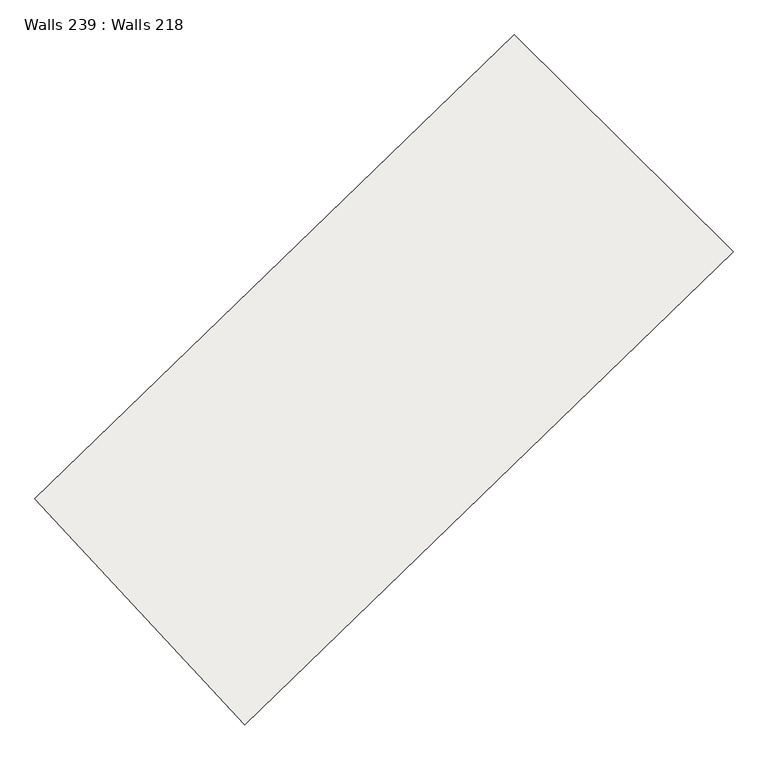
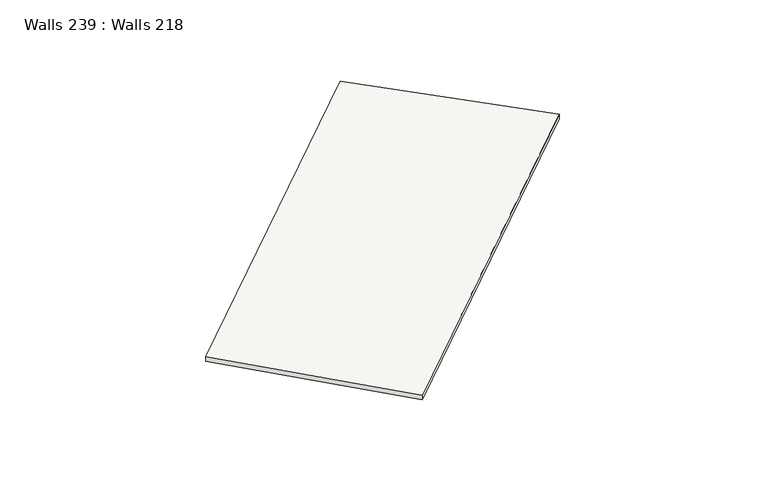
"""IFC4 building model written with IfcOpenShell, lengths in millimetres: slab geometry, Walls 239 : Walls 218."""

from ifc_helpers import new_model, si_unit, frame, origin, place, context, project, spatial, source, transform, mapped, element, save
from ifc_brep_helpers import plane_surface, spline_curve, spline_surface, advanced_brep


def walls_239_walls_218_a82ad72c(model_context):
    return source(origin(), model_context, "Body", "AdvancedBrep", [
        advanced_brep(
        [(370165.4526261, 240690.846763, 644465.0), (370165.4526261, 240690.846763, 644365.0), (372888.2739339, 237760.6772319, 644365.0), (372888.2739339, 237760.6772319, 644465.0), (376390.7596283, 246715.151751, 644577.0), (379230.0441313, 243897.6238432, 644577.0), (379230.0441313, 243897.6238432, 644477.0), (376390.7596283, 246715.151751, 644477.0)],
        [
            (0, 1),
            (1, 2),
            (2, 3),
            (3, 0),
            (4, 5),
            (5, 6),
            (6, 7),
            (7, 4),
            (4, 0, spline_curve(3, [(376390.7596283, 246715.151751, 644577.0), (374356.614224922, 244665.294566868, 644539.666667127), (372280.94434325, 242656.643678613, 644502.333332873), (370165.4526261, 240690.846763, 644465.0)], [4, 4], [0.0, 28.69159035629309])),
            (3, 5, spline_curve(3, [(372888.2739339, 237760.6772319, 644465.0), (375043.341691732, 239763.229715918, 644502.333332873), (377157.84326215, 241809.438075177, 644539.666667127), (379230.0441313, 243897.6238432, 644577.0)], [4, 4], [0.0, 28.69159035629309])),
            (7, 1, spline_curve(3, [(376390.7596283, 246715.151751, 644477.0), (374356.614225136, 244665.294566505, 644439.666667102), (372280.944343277, 242656.643678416, 644402.333332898), (370165.4526261, 240690.846763, 644365.0)], [4, 4], [0.0, 28.425809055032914])),
            (6, 2, spline_curve(3, [(379230.0441313, 243897.6238432, 644477.0), (377157.84326215, 241809.438075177, 644439.666667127), (375043.341691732, 239763.229715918, 644402.333332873), (372888.2739339, 237760.6772319, 644365.0)], [4, 4], [0.0, 28.69159035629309])),
        ],
        [
            plane_surface(frame((371526.86328, 239225.7619975, 644415.0), z_axis=(-0.7325504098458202, -0.6807127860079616, 0.0), x_axis=(0.0, 0.0, -1.0))),
            plane_surface(frame((377810.4018798, 245306.3877971, 644527.0), z_axis=(0.704381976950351, 0.7098211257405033, 0.0), x_axis=(0.0, 0.0, -1.0))),
            spline_surface(3, 3, [[(379230.0441313, 243897.6238432, 644577.0), (377157.843262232, 241809.438075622, 644539.666666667), (375043.341691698, 239763.229716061, 644502.333333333), (372888.2739339, 237760.6772319, 644465.0)], [(378283.615963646, 244836.799812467, 644577.0), (376224.100249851, 242761.390239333, 644539.666666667), (374122.542575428, 240727.701036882, 644502.333333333), (371980.666831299, 238737.400408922, 644465.0)], [(377337.187795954, 245775.975781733, 644577.0), (375290.357237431, 243713.342403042, 644539.666666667), (373201.743459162, 241692.172357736, 644502.333333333), (371073.059728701, 239714.123585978, 644465.0)], [(376390.7596283, 246715.151751, 644577.0), (374356.614225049, 244665.294566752, 644539.666666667), (372280.944342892, 242656.643678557, 644502.333333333), (370165.4526261, 240690.846763, 644465.0)]], [4, 4], [4, 4], [0.0, 13.123287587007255], [0.0, 28.69159035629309]),
            spline_surface(3, 3, [[(376390.7596283, 246715.151751, 644577.0), (374356.614225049, 244665.294566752, 644539.666666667), (372280.944342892, 242656.643678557, 644502.333333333), (370165.4526261, 240690.846763, 644465.0)], [(376390.7596283, 246715.151751, 644543.666666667), (374356.614225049, 244665.294566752, 644506.333333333), (372280.944342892, 242656.643678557, 644469.0), (370165.4526261, 240690.846763, 644431.666666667)], [(376390.7596283, 246715.151751, 644510.333333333), (374356.614225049, 244665.294566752, 644473.0), (372280.944342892, 242656.643678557, 644435.666666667), (370165.4526261, 240690.846763, 644398.333333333)], [(376390.7596283, 246715.151751, 644477.0), (374356.614225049, 244665.294566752, 644439.666666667), (372280.944342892, 242656.643678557, 644402.333333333), (370165.4526261, 240690.846763, 644365.0)]], [4, 4], [4, 4], [0.0, 0.3280839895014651], [0.0, 28.425809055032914]),
            spline_surface(3, 3, [[(376390.7596283, 246715.151751, 644477.0), (374356.614225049, 244665.294566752, 644439.666666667), (372280.944342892, 242656.643678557, 644402.333333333), (370165.4526261, 240690.846763, 644365.0)], [(377337.187795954, 245775.975781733, 644477.0), (375290.357237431, 243713.342403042, 644439.666666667), (373201.743459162, 241692.172357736, 644402.333333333), (371073.059728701, 239714.123585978, 644365.0)], [(378283.615963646, 244836.799812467, 644477.0), (376224.100249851, 242761.390239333, 644439.666666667), (374122.542575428, 240727.701036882, 644402.333333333), (371980.666831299, 238737.400408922, 644365.0)], [(379230.0441313, 243897.6238432, 644477.0), (377157.843262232, 241809.438075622, 644439.666666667), (375043.341691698, 239763.229716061, 644402.333333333), (372888.2739339, 237760.6772319, 644365.0)]], [4, 4], [4, 4], [0.0, 13.123287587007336], [0.0, 28.69159035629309]),
            spline_surface(3, 3, [[(379230.0441313, 243897.6238432, 644477.0), (377157.843262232, 241809.438075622, 644439.666666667), (375043.341691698, 239763.229716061, 644402.333333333), (372888.2739339, 237760.6772319, 644365.0)], [(379230.0441313, 243897.6238432, 644510.333333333), (377157.843262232, 241809.438075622, 644473.0), (375043.341691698, 239763.229716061, 644435.666666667), (372888.2739339, 237760.6772319, 644398.333333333)], [(379230.0441313, 243897.6238432, 644543.666666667), (377157.843262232, 241809.438075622, 644506.333333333), (375043.341691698, 239763.229716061, 644469.0), (372888.2739339, 237760.6772319, 644431.666666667)], [(379230.0441313, 243897.6238432, 644577.0), (377157.843262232, 241809.438075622, 644539.666666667), (375043.341691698, 239763.229716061, 644502.333333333), (372888.2739339, 237760.6772319, 644465.0)]], [4, 4], [4, 4], [0.0, 0.3280839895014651], [0.0, 28.957372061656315]),
        ],
        [
            (0, [[1, 2, 3, 4]]),
            (1, [[5, 6, 7, 8]]),
            (2, [[-5, 9, -4, 10]]),
            (3, [[-8, 11, -1, -9]]),
            (4, [[-7, 12, -2, -11]]),
            (5, [[-6, -10, -3, -12]]),
        ],
    ),
    ])


if __name__ == "__main__":
    model = new_model("IFC4")
    model_context = context("Model", 3, world=origin())
    ifc_project = project(units=[si_unit("LENGTHUNIT", "METRE", prefix="MILLI")], contexts=[model_context])
    site = spatial("IfcSite", under=ifc_project)
    building = spatial("IfcBuilding", under=site)
    placement = place(None, origin())
    walls_239_walls_218_shape = walls_239_walls_218_a82ad72c(model_context)
    element("IfcSlab", 1, ObjectType="Walls 239 : Walls 218", at=placement, inside=building, context=model_context, shape_type="MappedRepresentation", body=[
        mapped(walls_239_walls_218_shape, transform((0.0, 0.0, 0.0), x_axis=(1.0, 0.0, 0.0), y_axis=(0.0, 1.0, 0.0), z_axis=(0.0, 0.0, 1.0))),
    ])
    save(model, "model.ifc")
